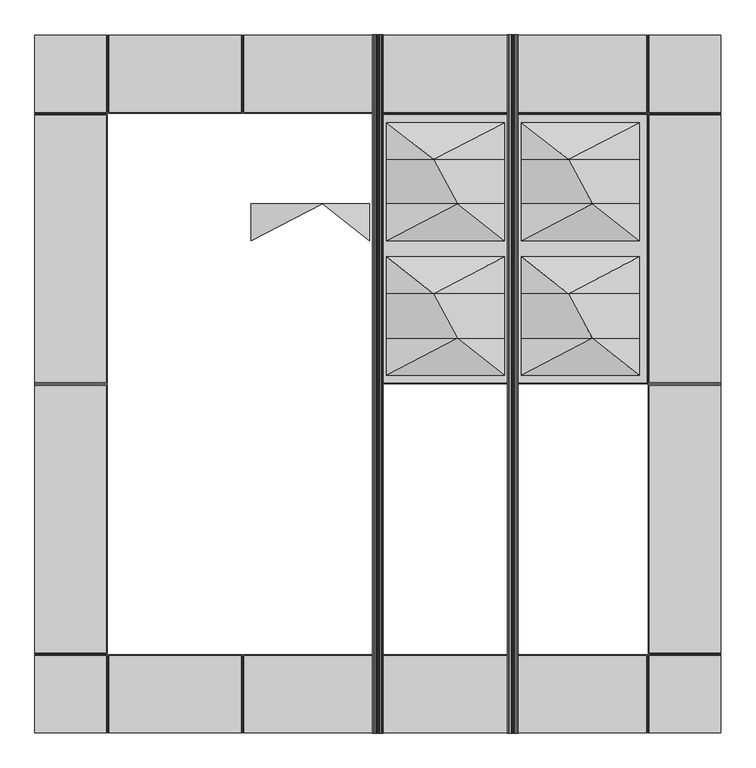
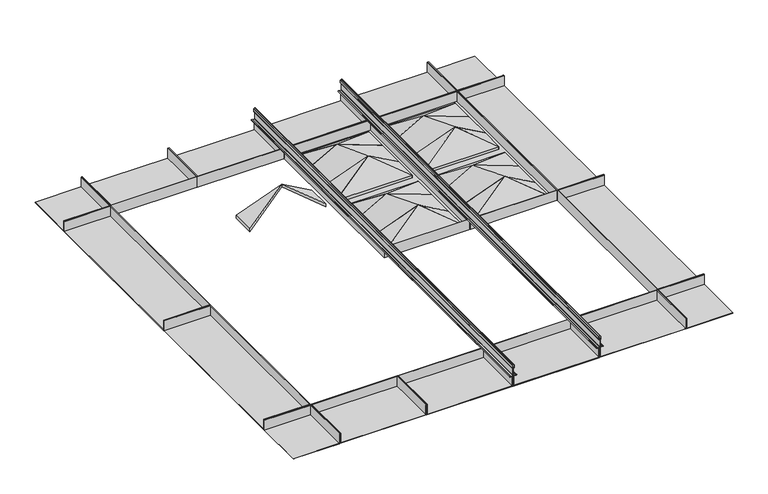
"""IFC4 building model written with IfcOpenShell, lengths in millimetres: proxy geometry, Maxxit_Highland-Ceiling_rev-01 : Maxxit_Highland-Ceiling_Duo."""

from ifc_helpers import new_model, si_unit, point, frame, frame_2d, origin, place, context, project, spatial, polyline, circle_curve, trimmed, segment, composite_curve, outline, extrude, faceted_brep, source, transform, mapped, element, save
from ifc_brep_helpers import plane_surface, spline_surface, advanced_brep


def generic_models_f8d8eb25(model_context):
    return source(origin(), model_context, "Body", "SolidModel", [
        extrude(outline(composite_curve([segment(polyline([(26.3453115, 1080.6459122), (26.0364605, 1089.0159382), (27.0486923, 1089.0159382), (27.0486923, 1081.2525313)]), True, "CONTINUOUS"), segment(trimmed(circle_curve(frame_2d((28.0053766, 1081.2525313)), 0.9566843), [point((27.0486923, 1081.2525313))], [point((28.0053766, 1080.295847))], True, "CARTESIAN"), True, "CONTINUOUS"), segment(polyline([(28.0053766, 1080.295847), (53.7729211, 1080.295847)]), True, "CONTINUOUS"), segment(trimmed(circle_curve(frame_2d((53.6130577, 1081.0226944)), 0.74422), [point((53.7729211, 1080.295847))], [point((54.356, 1080.9791036))], True, "CARTESIAN"), True, "CONTINUOUS"), segment(trimmed(circle_curve(frame_2d((58.371716, 1081.2382203)), 4.0240672), [point((54.356, 1080.9791036))], [point((54.4068054, 1081.9256795))], False, "CARTESIAN"), True, "CONTINUOUS"), segment(trimmed(circle_curve(frame_2d((55.7865501, 1081.567924)), 1.4253717), [point((54.4068054, 1081.9256795))], [point((55.7865501, 1082.9932957))], False, "CARTESIAN"), True, "CONTINUOUS"), segment(polyline([(55.7865501, 1082.9932957), (64.7585942, 1082.9932957)]), True, "CONTINUOUS"), segment(trimmed(circle_curve(frame_2d((64.8150812, 1080.9432108)), 2.0508629), [point((64.7585942, 1082.9932957))], [point((66.2652603, 1082.3933899))], False, "CARTESIAN"), True, "CONTINUOUS"), segment(polyline([(66.2652603, 1082.3933899), (68.1708325, 1080.4878177)]), True, "CONTINUOUS"), segment(trimmed(circle_curve(frame_2d((67.1830148, 1079.5)), 1.3969852), [point((68.1708325, 1080.4878177))], [point((68.1708325, 1078.5121823))], False, "CARTESIAN"), True, "CONTINUOUS"), segment(polyline([(68.1708325, 1078.5121823), (66.2652603, 1076.6066101)]), True, "CONTINUOUS"), segment(trimmed(circle_curve(frame_2d((64.8150812, 1078.0567892)), 2.0508629), [point((66.2652603, 1076.6066101))], [point((64.7585942, 1076.0067043))], False, "CARTESIAN"), True, "CONTINUOUS"), segment(polyline([(64.7585942, 1076.0067043), (55.7865501, 1076.0067043)]), True, "CONTINUOUS"), segment(trimmed(circle_curve(frame_2d((55.7865501, 1077.432076)), 1.4253717), [point((55.7865501, 1076.0067043))], [point((54.4068054, 1077.0743205))], False, "CARTESIAN"), True, "CONTINUOUS"), segment(trimmed(circle_curve(frame_2d((58.371716, 1077.7617797)), 4.0240672), [point((54.4068054, 1077.0743205))], [point((54.356, 1078.0208964))], False, "CARTESIAN"), True, "CONTINUOUS"), segment(trimmed(circle_curve(frame_2d((53.6130577, 1077.9773056)), 0.74422), [point((54.356, 1078.0208964))], [point((53.7436541, 1078.7099774))], True, "CARTESIAN"), True, "CONTINUOUS"), segment(polyline([(53.7436541, 1078.7099774), (28.0053766, 1078.7099774)]), True, "CONTINUOUS"), segment(trimmed(circle_curve(frame_2d((28.0053766, 1077.7532931)), 0.9566843), [point((28.0053766, 1078.7099774))], [point((27.0486923, 1077.7532931))], True, "CARTESIAN"), True, "CONTINUOUS"), segment(polyline([(27.0486923, 1077.7532931), (27.0486923, 1069.1569771), (26.0290179, 1069.1569771), (26.3453115, 1078.3599122)]), True, "CONTINUOUS"), segment(trimmed(circle_curve(frame_2d((27.4883115, 1078.3599122)), 1.143), [point((26.3453115, 1078.3599122))], [point((27.4883115, 1079.5029122))], False, "CARTESIAN"), True, "CONTINUOUS"), segment(trimmed(circle_curve(frame_2d((27.4883115, 1080.6459122)), 1.143), [point((27.4883115, 1079.5029122))], [point((26.3453115, 1080.6459122))], False, "CARTESIAN"), True, "CONTINUOUS")], self_intersect=False), holes=[composite_curve([segment(trimmed(circle_curve(frame_2d((54.058724, 1078.4303923)), 1.0922), [point((54.2797221, 1079.5))], [point((55.150924, 1078.4303923))], False, "CARTESIAN"), True, "CONTINUOUS"), segment(polyline([(55.150924, 1078.4303923), (55.150924, 1077.4399715)]), True, "CONTINUOUS"), segment(trimmed(circle_curve(frame_2d((55.7859245, 1077.4399715)), 0.6350005), [point((55.150924, 1077.4399715))], [point((55.7859245, 1076.804971))], True, "CARTESIAN"), True, "CONTINUOUS"), segment(polyline([(55.7859245, 1076.804971), (64.7585942, 1076.804971)]), True, "CONTINUOUS"), segment(trimmed(circle_curve(frame_2d((64.7240599, 1078.3078141)), 1.5032399), [point((64.7585942, 1076.804971))], [point((65.7039943, 1077.1678761))], True, "CARTESIAN"), True, "CONTINUOUS"), segment(polyline([(65.7039943, 1077.1678761), (67.6095665, 1079.0734483)]), True, "CONTINUOUS"), segment(trimmed(circle_curve(frame_2d((67.1830148, 1079.5)), 0.6032352), [point((67.6095665, 1079.0734483))], [point((67.6095665, 1079.9265517))], True, "CARTESIAN"), True, "CONTINUOUS"), segment(polyline([(67.6095665, 1079.9265517), (65.7039943, 1081.8321239)]), True, "CONTINUOUS"), segment(trimmed(circle_curve(frame_2d((64.7240599, 1080.6921859)), 1.5032399), [point((65.7039943, 1081.8321239))], [point((64.7585942, 1082.195029))], True, "CARTESIAN"), True, "CONTINUOUS"), segment(polyline([(64.7585942, 1082.195029), (55.7859245, 1082.195029)]), True, "CONTINUOUS"), segment(trimmed(circle_curve(frame_2d((55.7859245, 1081.5600285)), 0.6350005), [point((55.7859245, 1082.195029))], [point((55.150924, 1081.5600285))], True, "CARTESIAN"), True, "CONTINUOUS"), segment(polyline([(55.150924, 1081.5600285), (55.150924, 1080.5696077)]), True, "CONTINUOUS"), segment(trimmed(circle_curve(frame_2d((54.058724, 1080.5696077)), 1.0922), [point((55.150924, 1080.5696077))], [point((54.2797221, 1079.5))], False, "CARTESIAN"), True, "CONTINUOUS")], self_intersect=False)]), frame((0.0, -0.79375, 0.0), z_axis=(0.0, 1.0, 0.0), x_axis=(0.0, 0.0, 1.0)), (0.0, 0.0, 1.0), 1574.8),
        extrude(outline(composite_curve([segment(trimmed(circle_curve(frame_2d((26.8823557, 1089.9357385)), 1.4823557), [point((25.4, 1089.9357385))], [point((28.3175237, 1089.5646975))], False, "CARTESIAN"), True, "CONTINUOUS"), segment(polyline([(28.3175237, 1089.5646975), (27.887022, 1088.0385205), (27.123083, 1088.2540113), (27.550773, 1089.7702203)]), True, "CONTINUOUS"), segment(trimmed(circle_curve(frame_2d((26.8823557, 1089.9357385)), 0.6886057), [point((27.550773, 1089.7702203))], [point((26.19375, 1089.9357385))], True, "CARTESIAN"), True, "CONTINUOUS"), segment(polyline([(26.19375, 1089.9357385), (26.19375, 1069.0642615)]), True, "CONTINUOUS"), segment(trimmed(circle_curve(frame_2d((26.8823557, 1069.0642615)), 0.6886057), [point((26.19375, 1069.0642615))], [point((27.550773, 1069.2297797))], True, "CARTESIAN"), True, "CONTINUOUS"), segment(polyline([(27.550773, 1069.2297797), (27.123083, 1070.7459887), (27.887022, 1070.9614795), (28.3175237, 1069.4353025)]), True, "CONTINUOUS"), segment(trimmed(circle_curve(frame_2d((26.8823557, 1069.0642615)), 1.4823557), [point((28.3175237, 1069.4353025))], [point((25.4, 1069.0642615))], False, "CARTESIAN"), True, "CONTINUOUS"), segment(polyline([(25.4, 1069.0642615), (25.4, 1089.9357385)]), True, "CONTINUOUS")], self_intersect=False)), frame((0.0, -0.79375, 0.0), z_axis=(0.0, 1.0, 0.0), x_axis=(0.0, 0.0, 1.0)), (0.0, 0.0, 1.0), 1574.8),
        extrude(outline(composite_curve([segment(polyline([(26.3453115, 775.8459122), (26.0364605, 784.2159382), (27.0486923, 784.2159382), (27.0486923, 776.4525313)]), True, "CONTINUOUS"), segment(trimmed(circle_curve(frame_2d((28.0053766, 776.4525313)), 0.9566843), [point((27.0486923, 776.4525313))], [point((28.0053766, 775.495847))], True, "CARTESIAN"), True, "CONTINUOUS"), segment(polyline([(28.0053766, 775.495847), (53.7729211, 775.495847)]), True, "CONTINUOUS"), segment(trimmed(circle_curve(frame_2d((53.6130577, 776.2226944)), 0.74422), [point((53.7729211, 775.495847))], [point((54.356, 776.1791036))], True, "CARTESIAN"), True, "CONTINUOUS"), segment(trimmed(circle_curve(frame_2d((58.371716, 776.4382203)), 4.0240672), [point((54.356, 776.1791036))], [point((54.4068054, 777.1256795))], False, "CARTESIAN"), True, "CONTINUOUS"), segment(trimmed(circle_curve(frame_2d((55.7865501, 776.767924)), 1.4253717), [point((54.4068054, 777.1256795))], [point((55.7865501, 778.1932957))], False, "CARTESIAN"), True, "CONTINUOUS"), segment(polyline([(55.7865501, 778.1932957), (64.7585942, 778.1932957)]), True, "CONTINUOUS"), segment(trimmed(circle_curve(frame_2d((64.8150812, 776.1432108)), 2.0508629), [point((64.7585942, 778.1932957))], [point((66.2652603, 777.5933899))], False, "CARTESIAN"), True, "CONTINUOUS"), segment(polyline([(66.2652603, 777.5933899), (68.1708325, 775.6878177)]), True, "CONTINUOUS"), segment(trimmed(circle_curve(frame_2d((67.1830148, 774.7)), 1.3969852), [point((68.1708325, 775.6878177))], [point((68.1708325, 773.7121823))], False, "CARTESIAN"), True, "CONTINUOUS"), segment(polyline([(68.1708325, 773.7121823), (66.2652603, 771.8066101)]), True, "CONTINUOUS"), segment(trimmed(circle_curve(frame_2d((64.8150812, 773.2567892)), 2.0508629), [point((66.2652603, 771.8066101))], [point((64.7585942, 771.2067043))], False, "CARTESIAN"), True, "CONTINUOUS"), segment(polyline([(64.7585942, 771.2067043), (55.7865501, 771.2067043)]), True, "CONTINUOUS"), segment(trimmed(circle_curve(frame_2d((55.7865501, 772.632076)), 1.4253717), [point((55.7865501, 771.2067043))], [point((54.4068054, 772.2743205))], False, "CARTESIAN"), True, "CONTINUOUS"), segment(trimmed(circle_curve(frame_2d((58.371716, 772.9617797)), 4.0240672), [point((54.4068054, 772.2743205))], [point((54.356, 773.2208964))], False, "CARTESIAN"), True, "CONTINUOUS"), segment(trimmed(circle_curve(frame_2d((53.6130577, 773.1773056)), 0.74422), [point((54.356, 773.2208964))], [point((53.7436541, 773.9099774))], True, "CARTESIAN"), True, "CONTINUOUS"), segment(polyline([(53.7436541, 773.9099774), (28.0053766, 773.9099774)]), True, "CONTINUOUS"), segment(trimmed(circle_curve(frame_2d((28.0053766, 772.9532931)), 0.9566843), [point((28.0053766, 773.9099774))], [point((27.0486923, 772.9532931))], True, "CARTESIAN"), True, "CONTINUOUS"), segment(polyline([(27.0486923, 772.9532931), (27.0486923, 764.3569771), (26.0290179, 764.3569771), (26.3453115, 773.5599122)]), True, "CONTINUOUS"), segment(trimmed(circle_curve(frame_2d((27.4883115, 773.5599122)), 1.143), [point((26.3453115, 773.5599122))], [point((27.4883115, 774.7029122))], False, "CARTESIAN"), True, "CONTINUOUS"), segment(trimmed(circle_curve(frame_2d((27.4883115, 775.8459122)), 1.143), [point((27.4883115, 774.7029122))], [point((26.3453115, 775.8459122))], False, "CARTESIAN"), True, "CONTINUOUS")], self_intersect=False), holes=[composite_curve([segment(trimmed(circle_curve(frame_2d((54.058724, 773.6303923)), 1.0922), [point((54.2797221, 774.7))], [point((55.150924, 773.6303923))], False, "CARTESIAN"), True, "CONTINUOUS"), segment(polyline([(55.150924, 773.6303923), (55.150924, 772.6399715)]), True, "CONTINUOUS"), segment(trimmed(circle_curve(frame_2d((55.7859245, 772.6399715)), 0.6350005), [point((55.150924, 772.6399715))], [point((55.7859245, 772.004971))], True, "CARTESIAN"), True, "CONTINUOUS"), segment(polyline([(55.7859245, 772.004971), (64.7585942, 772.004971)]), True, "CONTINUOUS"), segment(trimmed(circle_curve(frame_2d((64.7240599, 773.5078141)), 1.5032399), [point((64.7585942, 772.004971))], [point((65.7039943, 772.3678761))], True, "CARTESIAN"), True, "CONTINUOUS"), segment(polyline([(65.7039943, 772.3678761), (67.6095665, 774.2734483)]), True, "CONTINUOUS"), segment(trimmed(circle_curve(frame_2d((67.1830148, 774.7)), 0.6032352), [point((67.6095665, 774.2734483))], [point((67.6095665, 775.1265517))], True, "CARTESIAN"), True, "CONTINUOUS"), segment(polyline([(67.6095665, 775.1265517), (65.7039943, 777.0321239)]), True, "CONTINUOUS"), segment(trimmed(circle_curve(frame_2d((64.7240599, 775.8921859)), 1.5032399), [point((65.7039943, 777.0321239))], [point((64.7585942, 777.395029))], True, "CARTESIAN"), True, "CONTINUOUS"), segment(polyline([(64.7585942, 777.395029), (55.7859245, 777.395029)]), True, "CONTINUOUS"), segment(trimmed(circle_curve(frame_2d((55.7859245, 776.7600285)), 0.6350005), [point((55.7859245, 777.395029))], [point((55.150924, 776.7600285))], True, "CARTESIAN"), True, "CONTINUOUS"), segment(polyline([(55.150924, 776.7600285), (55.150924, 775.7696077)]), True, "CONTINUOUS"), segment(trimmed(circle_curve(frame_2d((54.058724, 775.7696077)), 1.0922), [point((55.150924, 775.7696077))], [point((54.2797221, 774.7))], False, "CARTESIAN"), True, "CONTINUOUS")], self_intersect=False)]), frame((0.0, -0.79375, 0.0), z_axis=(0.0, 1.0, 0.0), x_axis=(0.0, 0.0, 1.0)), (0.0, 0.0, 1.0), 1574.8),
        extrude(outline(composite_curve([segment(trimmed(circle_curve(frame_2d((26.8823557, 785.1357385)), 1.4823557), [point((25.4, 785.1357385))], [point((28.3175237, 784.7646975))], False, "CARTESIAN"), True, "CONTINUOUS"), segment(polyline([(28.3175237, 784.7646975), (27.887022, 783.2385205), (27.123083, 783.4540113), (27.550773, 784.9702203)]), True, "CONTINUOUS"), segment(trimmed(circle_curve(frame_2d((26.8823557, 785.1357385)), 0.6886057), [point((27.550773, 784.9702203))], [point((26.19375, 785.1357385))], True, "CARTESIAN"), True, "CONTINUOUS"), segment(polyline([(26.19375, 785.1357385), (26.19375, 764.2642615)]), True, "CONTINUOUS"), segment(trimmed(circle_curve(frame_2d((26.8823557, 764.2642615)), 0.6886057), [point((26.19375, 764.2642615))], [point((27.550773, 764.4297797))], True, "CARTESIAN"), True, "CONTINUOUS"), segment(polyline([(27.550773, 764.4297797), (27.123083, 765.9459887), (27.887022, 766.1614795), (28.3175237, 764.6353025)]), True, "CONTINUOUS"), segment(trimmed(circle_curve(frame_2d((26.8823557, 764.2642615)), 1.4823557), [point((28.3175237, 764.6353025))], [point((25.4, 764.2642615))], False, "CARTESIAN"), True, "CONTINUOUS"), segment(polyline([(25.4, 764.2642615), (25.4, 785.1357385)]), True, "CONTINUOUS")], self_intersect=False)), frame((0.0, -0.79375, 0.0), z_axis=(0.0, 1.0, 0.0), x_axis=(0.0, 0.0, 1.0)), (0.0, 0.0, 1.0), 1574.8),
        faceted_brep([(1385.09375, 1395.4125, 25.4), (1385.09375, 787.4, 25.4), (1548.60625, 787.4, 25.4), (1548.60625, 788.9875, 25.4), (1386.68125, 788.9875, 25.4), (1386.68125, 1393.825, 25.4), (1548.60625, 1393.825, 25.4), (1548.60625, 1395.4125, 25.4), (1385.09375, 1395.4125, -12.7), (1548.60625, 1395.4125, -12.7), (1548.60625, 787.4, -12.7), (1385.09375, 787.4, -12.7), (1548.60625, 1393.825, -11.1125), (1548.60625, 788.9875, -11.1125), (1386.68125, 788.9875, -11.1125), (1386.68125, 1393.825, -11.1125)], [[[0, 1, 2, 3, 4, 5, 6, 7]], [[8, 9, 10, 11]], [[7, 9, 8, 0]], [[9, 7, 6, 12, 13, 3, 2, 10]], [[1, 11, 10, 2]], [[0, 8, 11, 1]], [[14, 13, 12, 15]], [[12, 6, 5, 15]], [[14, 4, 3, 13]], [[15, 5, 4, 14]]]),
        faceted_brep([(1385.09375, 785.8125, 25.4), (1385.09375, 177.8, 25.4), (1548.60625, 177.8, 25.4), (1548.60625, 179.3875, 25.4), (1386.68125, 179.3875, 25.4), (1386.68125, 784.225, 25.4), (1548.60625, 784.225, 25.4), (1548.60625, 785.8125, 25.4), (1385.09375, 785.8125, -12.7), (1548.60625, 785.8125, -12.7), (1548.60625, 177.8, -12.7), (1385.09375, 177.8, -12.7), (1548.60625, 784.225, -11.1125), (1548.60625, 179.3875, -11.1125), (1386.68125, 179.3875, -11.1125), (1386.68125, 784.225, -11.1125)], [[[0, 1, 2, 3, 4, 5, 6, 7]], [[8, 9, 10, 11]], [[7, 9, 8, 0]], [[9, 7, 6, 12, 13, 3, 2, 10]], [[1, 11, 10, 2]], [[0, 8, 11, 1]], [[14, 13, 12, 15]], [[12, 6, 5, 15]], [[14, 4, 3, 13]], [[15, 5, 4, 14]]]),
        faceted_brep([(1383.30625, 1397.0, 25.4), (1383.30625, 1573.2125, 25.4), (1381.71875, 1573.2125, 25.4), (1381.71875, 1398.5875, 25.4), (1081.88125, 1398.5875, 25.4), (1081.88125, 1573.2125, 25.4), (1080.29375, 1573.2125, 25.4), (1080.29375, 1397.0, 25.4), (1383.30625, 1397.0, -12.7), (1080.29375, 1397.0, -12.7), (1080.29375, 1573.2125, -12.7), (1383.30625, 1573.2125, -12.7), (1081.88125, 1573.2125, -11.1125), (1381.71875, 1573.2125, -11.1125), (1381.71875, 1398.5875, -11.1125), (1081.88125, 1398.5875, -11.1125)], [[[0, 1, 2, 3, 4, 5, 6, 7]], [[8, 9, 10, 11]], [[7, 9, 8, 0]], [[6, 10, 9, 7]], [[10, 6, 5, 12, 13, 2, 1, 11]], [[0, 8, 11, 1]], [[14, 13, 12, 15]], [[15, 4, 3, 14]], [[12, 5, 4, 15]], [[14, 3, 2, 13]]]),
        faceted_brep([(1078.50625, 1397.0, 25.4), (1078.50625, 1573.2125, 25.4), (1076.91875, 1573.2125, 25.4), (1076.91875, 1398.5875, 25.4), (777.08125, 1398.5875, 25.4), (777.08125, 1573.2125, 25.4), (775.49375, 1573.2125, 25.4), (775.49375, 1397.0, 25.4), (1078.50625, 1397.0, -12.7), (775.49375, 1397.0, -12.7), (775.49375, 1573.2125, -12.7), (1078.50625, 1573.2125, -12.7), (777.08125, 1573.2125, -11.1125), (1076.91875, 1573.2125, -11.1125), (1076.91875, 1398.5875, -11.1125), (777.08125, 1398.5875, -11.1125)], [[[0, 1, 2, 3, 4, 5, 6, 7]], [[8, 9, 10, 11]], [[7, 9, 8, 0]], [[6, 10, 9, 7]], [[10, 6, 5, 12, 13, 2, 1, 11]], [[0, 8, 11, 1]], [[14, 13, 12, 15]], [[15, 4, 3, 14]], [[12, 5, 4, 15]], [[14, 3, 2, 13]]]),
        faceted_brep([(773.70625, 1397.0, 25.4), (773.70625, 1573.2125, 25.4), (772.11875, 1573.2125, 25.4), (772.11875, 1398.5875, 25.4), (472.28125, 1398.5875, 25.4), (472.28125, 1573.2125, 25.4), (470.69375, 1573.2125, 25.4), (470.69375, 1397.0, 25.4), (773.70625, 1397.0, -12.7), (470.69375, 1397.0, -12.7), (470.69375, 1573.2125, -12.7), (773.70625, 1573.2125, -12.7), (472.28125, 1573.2125, -11.1125), (772.11875, 1573.2125, -11.1125), (772.11875, 1398.5875, -11.1125), (472.28125, 1398.5875, -11.1125)], [[[0, 1, 2, 3, 4, 5, 6, 7]], [[8, 9, 10, 11]], [[7, 9, 8, 0]], [[6, 10, 9, 7]], [[10, 6, 5, 12, 13, 2, 1, 11]], [[0, 8, 11, 1]], [[14, 13, 12, 15]], [[15, 4, 3, 14]], [[12, 5, 4, 15]], [[14, 3, 2, 13]]]),
        faceted_brep([(468.90625, 1397.0, 25.4), (468.90625, 1573.2125, 25.4), (467.31875, 1573.2125, 25.4), (467.31875, 1398.5875, 25.4), (167.48125, 1398.5875, 25.4), (167.48125, 1573.2125, 25.4), (165.89375, 1573.2125, 25.4), (165.89375, 1397.0, 25.4), (468.90625, 1397.0, -12.7), (165.89375, 1397.0, -12.7), (165.89375, 1573.2125, -12.7), (468.90625, 1573.2125, -12.7), (167.48125, 1573.2125, -11.1125), (467.31875, 1573.2125, -11.1125), (467.31875, 1398.5875, -11.1125), (167.48125, 1398.5875, -11.1125)], [[[0, 1, 2, 3, 4, 5, 6, 7]], [[8, 9, 10, 11]], [[7, 9, 8, 0]], [[6, 10, 9, 7]], [[10, 6, 5, 12, 13, 2, 1, 11]], [[0, 8, 11, 1]], [[14, 13, 12, 15]], [[15, 4, 3, 14]], [[12, 5, 4, 15]], [[14, 3, 2, 13]]]),
        faceted_brep([(164.30625, 1395.4125, 25.4), (0.79375, 1395.4125, 25.4), (0.79375, 1393.825, 25.4), (162.71875, 1393.825, 25.4), (162.71875, 788.9875, 25.4), (0.79375, 788.9875, 25.4), (0.79375, 787.4, 25.4), (164.30625, 787.4, 25.4), (164.30625, 1395.4125, -12.7), (164.30625, 787.4, -12.7), (0.79375, 787.4, -12.7), (0.79375, 1395.4125, -12.7), (0.79375, 788.9875, -11.1125), (0.79375, 1393.825, -11.1125), (162.71875, 788.9875, -11.1125), (162.71875, 1393.825, -11.1125)], [[[0, 1, 2, 3, 4, 5, 6, 7]], [[8, 9, 10, 11]], [[1, 0, 8, 11]], [[11, 10, 6, 5, 12, 13, 2, 1]], [[7, 6, 10, 9]], [[0, 7, 9, 8]], [[14, 15, 13, 12]], [[13, 15, 3, 2]], [[14, 12, 5, 4]], [[15, 14, 4, 3]]]),
        faceted_brep([(164.30625, 785.8125, 25.4), (0.79375, 785.8125, 25.4), (0.79375, 784.225, 25.4), (162.71875, 784.225, 25.4), (162.71875, 179.3875, 25.4), (0.79375, 179.3875, 25.4), (0.79375, 177.8, 25.4), (164.30625, 177.8, 25.4), (164.30625, 785.8125, -12.7), (164.30625, 177.8, -12.7), (0.79375, 177.8, -12.7), (0.79375, 785.8125, -12.7), (0.79375, 179.3875, -11.1125), (0.79375, 784.225, -11.1125), (162.71875, 179.3875, -11.1125), (162.71875, 784.225, -11.1125)], [[[0, 1, 2, 3, 4, 5, 6, 7]], [[8, 9, 10, 11]], [[1, 0, 8, 11]], [[11, 10, 6, 5, 12, 13, 2, 1]], [[7, 6, 10, 9]], [[0, 7, 9, 8]], [[14, 15, 13, 12]], [[13, 15, 3, 2]], [[14, 12, 5, 4]], [[15, 14, 4, 3]]]),
        faceted_brep([(1383.30625, 176.2125, 25.4), (1080.29375, 176.2125, 25.4), (1080.29375, 0.0, 25.4), (1081.88125, 0.0, 25.4), (1081.88125, 174.625, 25.4), (1381.71875, 174.625, 25.4), (1381.71875, 0.0, 25.4), (1383.30625, 0.0, 25.4), (1383.30625, 176.2125, -12.7), (1383.30625, 0.0, -12.7), (1080.29375, 0.0, -12.7), (1080.29375, 176.2125, -12.7), (1381.71875, 0.0, -11.1125), (1081.88125, 0.0, -11.1125), (1381.71875, 174.625, -11.1125), (1081.88125, 174.625, -11.1125)], [[[0, 1, 2, 3, 4, 5, 6, 7]], [[8, 9, 10, 11]], [[1, 0, 8, 11]], [[2, 1, 11, 10]], [[10, 9, 7, 6, 12, 13, 3, 2]], [[0, 7, 9, 8]], [[14, 15, 13, 12]], [[15, 14, 5, 4]], [[13, 15, 4, 3]], [[14, 12, 6, 5]]]),
        faceted_brep([(1078.50625, 176.2125, 25.4), (775.49375, 176.2125, 25.4), (775.49375, 0.0, 25.4), (777.08125, 0.0, 25.4), (777.08125, 174.625, 25.4), (1076.91875, 174.625, 25.4), (1076.91875, 0.0, 25.4), (1078.50625, 0.0, 25.4), (1078.50625, 176.2125, -12.7), (1078.50625, 0.0, -12.7), (775.49375, 0.0, -12.7), (775.49375, 176.2125, -12.7), (1076.91875, 0.0, -11.1125), (777.08125, 0.0, -11.1125), (1076.91875, 174.625, -11.1125), (777.08125, 174.625, -11.1125)], [[[0, 1, 2, 3, 4, 5, 6, 7]], [[8, 9, 10, 11]], [[1, 0, 8, 11]], [[2, 1, 11, 10]], [[10, 9, 7, 6, 12, 13, 3, 2]], [[0, 7, 9, 8]], [[14, 15, 13, 12]], [[15, 14, 5, 4]], [[13, 15, 4, 3]], [[14, 12, 6, 5]]]),
        faceted_brep([(773.70625, 176.2125, 25.4), (470.69375, 176.2125, 25.4), (470.69375, 0.0, 25.4), (472.28125, 0.0, 25.4), (472.28125, 174.625, 25.4), (772.11875, 174.625, 25.4), (772.11875, 0.0, 25.4), (773.70625, 0.0, 25.4), (773.70625, 176.2125, -12.7), (773.70625, 0.0, -12.7), (470.69375, 0.0, -12.7), (470.69375, 176.2125, -12.7), (772.11875, 0.0, -11.1125), (472.28125, 0.0, -11.1125), (772.11875, 174.625, -11.1125), (472.28125, 174.625, -11.1125)], [[[0, 1, 2, 3, 4, 5, 6, 7]], [[8, 9, 10, 11]], [[1, 0, 8, 11]], [[2, 1, 11, 10]], [[10, 9, 7, 6, 12, 13, 3, 2]], [[0, 7, 9, 8]], [[14, 15, 13, 12]], [[15, 14, 5, 4]], [[13, 15, 4, 3]], [[14, 12, 6, 5]]]),
        faceted_brep([(468.90625, 176.2125, 25.4), (165.89375, 176.2125, 25.4), (165.89375, 0.0, 25.4), (167.48125, 0.0, 25.4), (167.48125, 174.625, 25.4), (467.31875, 174.625, 25.4), (467.31875, 0.0, 25.4), (468.90625, 0.0, 25.4), (468.90625, 176.2125, -12.7), (468.90625, 0.0, -12.7), (165.89375, 0.0, -12.7), (165.89375, 176.2125, -12.7), (467.31875, 0.0, -11.1125), (167.48125, 0.0, -11.1125), (467.31875, 174.625, -11.1125), (167.48125, 174.625, -11.1125)], [[[0, 1, 2, 3, 4, 5, 6, 7]], [[8, 9, 10, 11]], [[1, 0, 8, 11]], [[2, 1, 11, 10]], [[10, 9, 7, 6, 12, 13, 3, 2]], [[0, 7, 9, 8]], [[14, 15, 13, 12]], [[15, 14, 5, 4]], [[13, 15, 4, 3]], [[14, 12, 6, 5]]]),
        faceted_brep([(1548.60625, 176.2125, 25.4), (1385.09375, 176.2125, 25.4), (1385.09375, 0.0, 25.4), (1386.68125, 0.0, 25.4), (1386.68125, 174.625, 25.4), (1548.60625, 174.625, 25.4), (1385.09375, 0.0, -12.7), (1385.09375, 176.2125, -12.7), (1548.60625, 176.2125, -12.7), (1548.60625, 0.0, -12.7), (1548.60625, 0.0, -11.1125), (1386.68125, 0.0, -11.1125), (1548.60625, 174.625, -11.1125), (1386.68125, 174.625, -11.1125)], [[[0, 1, 2, 3, 4, 5]], [[6, 7, 8, 9]], [[6, 9, 10, 11, 3, 2]], [[9, 8, 0, 5, 12, 10]], [[2, 1, 7, 6]], [[1, 0, 8, 7]], [[13, 11, 10, 12]], [[11, 13, 4, 3]], [[13, 12, 5, 4]]]),
        faceted_brep([(164.30625, 0.0, 25.4), (164.30625, 176.2125, 25.4), (0.79375, 176.2125, 25.4), (0.79375, 174.625, 25.4), (162.71875, 174.625, 25.4), (162.71875, 0.0, 25.4), (0.79375, 176.2125, -12.7), (164.30625, 176.2125, -12.7), (164.30625, 0.0, -12.7), (0.79375, 0.0, -12.7), (0.79375, 0.0, -11.1125), (0.79375, 174.625, -11.1125), (162.71875, 0.0, -11.1125), (162.71875, 174.625, -11.1125)], [[[0, 1, 2, 3, 4, 5]], [[6, 7, 8, 9]], [[6, 9, 10, 11, 3, 2]], [[9, 8, 0, 5, 12, 10]], [[1, 0, 8, 7]], [[2, 1, 7, 6]], [[13, 11, 10, 12]], [[11, 13, 4, 3]], [[13, 12, 5, 4]]]),
        faceted_brep([(164.30625, 1397.0, 25.4), (164.30625, 1573.2125, 25.4), (162.71875, 1573.2125, 25.4), (162.71875, 1398.5875, 25.4), (0.79375, 1398.5875, 25.4), (0.79375, 1397.0, 25.4), (164.30625, 1397.0, -12.7), (0.79375, 1397.0, -12.7), (0.79375, 1573.2125, -12.7), (164.30625, 1573.2125, -12.7), (0.79375, 1573.2125, -11.1125), (162.71875, 1573.2125, -11.1125), (0.79375, 1398.5875, -11.1125), (162.71875, 1398.5875, -11.1125)], [[[0, 1, 2, 3, 4, 5]], [[6, 7, 8, 9]], [[1, 0, 6, 9]], [[0, 5, 7, 6]], [[9, 8, 10, 11, 2, 1]], [[8, 7, 5, 4, 12, 10]], [[13, 11, 10, 12]], [[11, 13, 3, 2]], [[13, 12, 4, 3]]]),
        faceted_brep([(1385.09375, 1573.2125, 25.4), (1385.09375, 1397.0, 25.4), (1548.60625, 1397.0, 25.4), (1548.60625, 1398.5875, 25.4), (1386.68125, 1398.5875, 25.4), (1386.68125, 1573.2125, 25.4), (1385.09375, 1573.2125, -12.7), (1548.60625, 1573.2125, -12.7), (1548.60625, 1397.0, -12.7), (1385.09375, 1397.0, -12.7), (1386.68125, 1573.2125, -11.1125), (1548.60625, 1573.2125, -11.1125), (1548.60625, 1398.5875, -11.1125), (1386.68125, 1398.5875, -11.1125)], [[[0, 1, 2, 3, 4, 5]], [[6, 7, 8, 9]], [[7, 6, 0, 5, 10, 11]], [[1, 0, 6, 9]], [[2, 1, 9, 8]], [[8, 7, 11, 12, 3, 2]], [[13, 12, 11, 10]], [[12, 13, 4, 3]], [[13, 10, 5, 4]]]),
        faceted_brep([(1365.50625, 1192.9263925, -11.1125), (1259.4655039, 1192.9263925, 48.5063488), (1098.8062531, 1192.9263925, -11.1125), (1098.8062531, 1192.9263925, -0.9528165), (1259.4655039, 1192.9263925, 58.6660323), (1365.50625, 1192.9263925, -0.9528165), (1365.50625, 1109.6625153, -0.9528165), (1365.50625, 1109.6625153, -11.1125), (1098.8113555, 1109.6513203, -11.1106065), (1098.8062531, 1109.6486744, -0.9528165)], [[[0, 1, 2, 3, 4, 5]], [[5, 4, 6]], [[0, 5, 6, 7]], [[1, 0, 7]], [[2, 1, 8]], [[3, 2, 8, 9]], [[4, 3, 9]], [[1, 4, 9, 8]], [[4, 1, 7, 6]]]),
        faceted_brep([(1098.8062531, 1109.6625153, -0.9528165), (1365.50625, 1109.6625153, -0.9528165), (1259.4655039, 1192.9263925, 58.6660323), (1365.50625, 1109.6625153, -11.1125), (1098.8062531, 1109.6625153, -11.1125), (1259.4479879, 1192.9487231, 48.522338)], [[[0, 1, 2]], [[3, 4, 5]], [[1, 0, 4, 3]], [[5, 2, 1, 3]], [[2, 5, 4, 0]]]),
        faceted_brep([(1098.8062531, 1376.3297521, -0.9528165), (1365.50625, 1376.3297521, -0.9528165), (1365.4430731, 1376.3297521, -11.1125), (1098.8062531, 1376.3297521, -11.1125), (1204.8710937, 1293.0658749, 48.5063488), (1204.8710937, 1293.0658749, 58.6660323)], [[[0, 1, 2, 3]], [[3, 2, 4]], [[1, 0, 5]], [[5, 4, 2, 1]], [[4, 5, 0, 3]]]),
        advanced_brep(
        [(1365.50625, 889.713865, -0.9528165), (1259.4655039, 889.713865, 58.6660323), (1098.8062531, 889.713865, -0.9528165), (1098.8062531, 889.713865, -11.1125), (1259.4655039, 889.713865, 48.5063488), (1365.50625, 889.713865, -11.1125), (1365.50625, 989.8533474, -0.9528165), (1365.50625, 989.8533474, -11.1125), (1204.8710937, 989.8533474, 48.4974075), (1098.8062531, 989.8533474, -11.1125), (1098.8062531, 989.8533474, -0.9528165), (1204.8710937, 989.8533474, 58.6570911)],
        [
            (0, 1),
            (1, 2),
            (2, 3),
            (3, 4),
            (4, 5),
            (5, 0),
            (6, 7),
            (7, 8),
            (8, 9),
            (9, 10),
            (10, 11),
            (11, 6),
            (6, 0),
            (5, 7),
            (4, 8),
            (3, 9),
            (2, 10),
            (1, 11),
        ],
        [
            plane_surface(frame((1241.2593357, 889.713865, 13.8402914), z_axis=(0.0, -1.0000000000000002, 0.0), x_axis=(0.8716776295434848, 0.0, -0.4900796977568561))),
            plane_surface(frame((1223.0611989, 989.8533474, 13.8373109), z_axis=(0.0, 1.0000000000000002, 0.0), x_axis=(0.8716776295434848, 0.0, -0.4900796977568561))),
            plane_surface(frame((1365.50625, 989.8533474, -6.0326582), z_axis=(1.0, 0.0, 0.0), x_axis=(0.0, 0.0, 1.0))),
            spline_surface(1, 1, [[(1204.8710937, 989.8533474, 48.4974075), (1259.4655039, 889.713865, 48.5063488)], [(1365.50625, 989.8533474, -11.1125), (1365.50625, 889.713865, -11.1125)]], [2, 2], [2, 2], [0.0, 1.0], [0.0, 1.0]),
            spline_surface(1, 1, [[(1098.8062531, 989.8533474, -11.1125), (1098.8062531, 889.713865, -11.1125)], [(1204.8710937, 989.8533474, 48.4974075), (1259.4655039, 889.713865, 48.5063488)]], [2, 2], [2, 2], [0.0, 1.0], [0.0, 1.0]),
            plane_surface(frame((1098.8062531, 989.8533474, -6.0326582), z_axis=(-1.0, 0.0, 0.0), x_axis=(0.0, 0.0, -1.0))),
            spline_surface(1, 1, [[(1204.8710937, 989.8533474, 58.6570911), (1259.4655039, 889.713865, 58.6660323)], [(1098.8062531, 989.8533474, -0.9528165), (1098.8062531, 889.713865, -0.9528165)]], [2, 2], [2, 2], [0.0, 1.0], [0.0, 1.0]),
            spline_surface(1, 1, [[(1365.50625, 989.8533474, -0.9528165), (1365.50625, 889.713865, -0.9528165)], [(1204.8710937, 989.8533474, 58.6570911), (1259.4655039, 889.713865, 58.6660323)]], [2, 2], [2, 2], [0.0, 1.0], [0.0, 1.0]),
        ],
        [
            (0, [[1, 2, 3, 4, 5, 6]]),
            (1, [[7, 8, 9, 10, 11, 12]]),
            (2, [[-7, 13, -6, 14]]),
            (3, [[-8, -14, -5, 15]]),
            (4, [[-9, -15, -4, 16]]),
            (5, [[-10, -16, -3, 17]]),
            (6, [[-11, -17, -2, 18]]),
            (7, [[-12, -18, -1, -13]]),
        ],
    ),
        faceted_brep([(1365.50625, 1293.0658749, -11.1125), (1365.50625, 1293.0658749, -0.9528165), (1204.8710937, 1293.0658749, 58.6570911), (1098.8062531, 1293.0658749, -0.9528165), (1098.8062531, 1293.0658749, -11.1125), (1204.8710937, 1293.0658749, 48.4974075), (1365.50625, 1376.3625122, -0.9528165), (1365.50625, 1376.3625122, -11.1125), (1098.8062531, 1376.3625122, -11.1125), (1098.8062531, 1376.3625122, -0.9528165)], [[[0, 1, 2, 3, 4, 5]], [[2, 1, 6]], [[1, 0, 7, 6]], [[0, 5, 7]], [[5, 4, 8]], [[4, 3, 9, 8]], [[3, 2, 9]], [[5, 2, 6, 7]], [[2, 5, 8, 9]]]),
        advanced_brep(
        [(1365.50625, 1192.9263925, -0.9528165), (1259.4655039, 1192.9263925, 58.6660323), (1098.8062531, 1192.9263925, -0.9528165), (1098.8062531, 1192.9263925, -11.1125), (1259.4655039, 1192.9263925, 48.5063488), (1365.50625, 1192.9263925, -11.1125), (1365.50625, 1293.0658749, -0.9528165), (1365.50625, 1293.0658749, -11.1125), (1204.8710937, 1293.0658749, 48.4974075), (1098.8062531, 1293.0658749, -11.1125), (1098.8062531, 1293.0658749, -0.9528165), (1204.8710937, 1293.0658749, 58.6570911)],
        [
            (0, 1),
            (1, 2),
            (2, 3),
            (3, 4),
            (4, 5),
            (5, 0),
            (6, 7),
            (7, 8),
            (8, 9),
            (9, 10),
            (10, 11),
            (11, 6),
            (6, 0),
            (5, 7),
            (4, 8),
            (3, 9),
            (2, 10),
            (1, 11),
        ],
        [
            plane_surface(frame((1241.2593357, 1192.9263925, 13.8402914), z_axis=(0.0, -1.0000000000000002, 0.0), x_axis=(0.8716776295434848, 0.0, -0.4900796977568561))),
            plane_surface(frame((1223.0611989, 1293.0658749, 13.8373109), z_axis=(0.0, 1.0000000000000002, 0.0), x_axis=(0.8716776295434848, 0.0, -0.4900796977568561))),
            plane_surface(frame((1365.50625, 1293.0658749, -6.0326582), z_axis=(1.0, 0.0, 0.0), x_axis=(0.0, 0.0, 1.0))),
            spline_surface(1, 1, [[(1204.8710937, 1293.0658749, 48.4974075), (1259.4655039, 1192.9263925, 48.5063488)], [(1365.50625, 1293.0658749, -11.1125), (1365.50625, 1192.9263925, -11.1125)]], [2, 2], [2, 2], [0.0, 1.0], [0.0, 1.0]),
            spline_surface(1, 1, [[(1098.8062531, 1293.0658749, -11.1125), (1098.8062531, 1192.9263925, -11.1125)], [(1204.8710937, 1293.0658749, 48.4974075), (1259.4655039, 1192.9263925, 48.5063488)]], [2, 2], [2, 2], [0.0, 1.0], [0.0, 1.0]),
            plane_surface(frame((1098.8062531, 1293.0658749, -6.0326582), z_axis=(-1.0, 0.0, 0.0), x_axis=(0.0, 0.0, -1.0))),
            spline_surface(1, 1, [[(1204.8710937, 1293.0658749, 58.6570911), (1259.4655039, 1192.9263925, 58.6660323)], [(1098.8062531, 1293.0658749, -0.9528165), (1098.8062531, 1192.9263925, -0.9528165)]], [2, 2], [2, 2], [0.0, 1.0], [0.0, 1.0]),
            spline_surface(1, 1, [[(1365.50625, 1293.0658749, -0.9528165), (1365.50625, 1192.9263925, -0.9528165)], [(1204.8710937, 1293.0658749, 58.6570911), (1259.4655039, 1192.9263925, 58.6660323)]], [2, 2], [2, 2], [0.0, 1.0], [0.0, 1.0]),
        ],
        [
            (0, [[1, 2, 3, 4, 5, 6]]),
            (1, [[7, 8, 9, 10, 11, 12]]),
            (2, [[-7, 13, -6, 14]]),
            (3, [[-8, -14, -5, 15]]),
            (4, [[-9, -15, -4, 16]]),
            (5, [[-10, -16, -3, 17]]),
            (6, [[-11, -17, -2, 18]]),
            (7, [[-12, -18, -1, -13]]),
        ],
    ),
        faceted_brep([(1098.8062531, 806.4499878, -0.9528165), (1365.50625, 806.4499878, -0.9528165), (1259.4655039, 889.713865, 58.6660323), (1365.50625, 806.4499878, -11.1125), (1098.8062531, 806.4499878, -11.1125), (1259.4479879, 889.7361956, 48.522338)], [[[0, 1, 2]], [[3, 4, 5]], [[1, 0, 4, 3]], [[5, 2, 1, 3]], [[2, 5, 4, 0]]]),
        faceted_brep([(1098.8062531, 1073.1172247, -0.9528165), (1365.50625, 1073.1172247, -0.9528165), (1365.4430731, 1073.1172247, -11.1125), (1098.8062531, 1073.1172247, -11.1125), (1204.8710937, 989.8533474, 48.5063488), (1204.8710937, 989.8533474, 58.6660323)], [[[0, 1, 2, 3]], [[3, 2, 4]], [[1, 0, 5]], [[5, 4, 2, 1]], [[4, 5, 0, 3]]]),
        faceted_brep([(1365.50625, 889.713865, -11.1125), (1259.4655039, 889.713865, 48.5063488), (1098.8062531, 889.713865, -11.1125), (1098.8062531, 889.713865, -0.9528165), (1259.4655039, 889.713865, 58.6660323), (1365.50625, 889.713865, -0.9528165), (1365.50625, 806.4499878, -0.9528165), (1365.50625, 806.4499878, -11.1125), (1098.8113555, 806.4387928, -11.1106065), (1098.8062531, 806.436147, -0.9528165)], [[[0, 1, 2, 3, 4, 5]], [[5, 4, 6]], [[0, 5, 6, 7]], [[1, 0, 7]], [[2, 1, 8]], [[3, 2, 8, 9]], [[4, 3, 9]], [[1, 4, 9, 8]], [[4, 1, 7, 6]]]),
        faceted_brep([(1365.50625, 989.8533474, -11.1125), (1365.50625, 989.8533474, -0.9528165), (1204.8710937, 989.8533474, 58.6570911), (1098.8062531, 989.8533474, -0.9528165), (1098.8062531, 989.8533474, -11.1125), (1204.8710937, 989.8533474, 48.4974075), (1365.50625, 1073.1499847, -0.9528165), (1365.50625, 1073.1499847, -11.1125), (1098.8062531, 1073.1499847, -11.1125), (1098.8062531, 1073.1499847, -0.9528165)], [[[0, 1, 2, 3, 4, 5]], [[2, 1, 6]], [[1, 0, 7, 6]], [[0, 5, 7]], [[5, 4, 8]], [[4, 3, 9, 8]], [[3, 2, 9]], [[5, 2, 6, 7]], [[2, 5, 8, 9]]]),
        faceted_brep([(1080.29375, 1395.4125, 25.4), (1383.50625, 1395.4125, 25.4), (1383.50625, 1395.4125, -12.7), (1080.29375, 1395.4125, -12.7), (1365.50625, 1073.1499847, -12.7), (1365.50625, 806.4499878, -12.7), (1365.50625, 806.4499878, -11.1125), (1365.50625, 1073.1499847, -11.1125), (1098.8062531, 806.4499878, -12.7), (1098.8062531, 806.4499878, -11.1125), (1381.91875, 788.9875, -11.1125), (1081.88125, 788.9875, -11.1125), (1081.88125, 788.9875, 25.4), (1381.91875, 788.9875, 25.4), (1381.91875, 1393.825, -11.1125), (1381.91875, 1393.825, 25.4), (1080.29375, 787.4, 25.4), (1383.50625, 787.4, 25.4), (1081.88125, 1393.825, 25.4), (1080.29375, 787.4, -12.7), (1383.50625, 787.4, -12.7), (1098.8062531, 1073.1499847, -12.7), (1098.8062531, 1376.3625122, -12.7), (1098.8062531, 1109.6625153, -12.7), (1365.50625, 1109.6625153, -12.7), (1365.50625, 1376.3625122, -12.7), (1098.8062531, 1073.1499847, -11.1125), (1081.88125, 1393.825, -11.1125), (1098.8062531, 1376.3625122, -11.1125), (1365.50625, 1376.3625122, -11.1125), (1365.50625, 1109.6625153, -11.1125), (1098.8062531, 1109.6625153, -11.1125)], [[[0, 1, 2, 3]], [[4, 5, 6, 7]], [[5, 8, 9, 6]], [[10, 11, 12, 13]], [[14, 10, 13, 15]], [[16, 17, 1, 0], [13, 12, 18, 15]], [[19, 3, 2, 20], [8, 5, 4, 21], [22, 23, 24, 25]], [[17, 16, 19, 20]], [[1, 17, 20, 2]], [[16, 0, 3, 19]], [[8, 21, 26, 9]], [[21, 4, 7, 26]], [[11, 10, 14, 27], [7, 6, 9, 26], [28, 29, 30, 31]], [[27, 14, 15, 18]], [[11, 27, 18, 12]], [[22, 25, 29, 28]], [[25, 24, 30, 29]], [[24, 23, 31, 30]], [[23, 22, 28, 31]]]),
        faceted_brep([(1060.70625, 1192.9263925, -11.1125), (954.6655039, 1192.9263925, 48.5063488), (794.0062531, 1192.9263925, -11.1125), (794.0062531, 1192.9263925, -0.9528165), (954.6655039, 1192.9263925, 58.6660323), (1060.70625, 1192.9263925, -0.9528165), (1060.70625, 1109.6625153, -0.9528165), (1060.70625, 1109.6625153, -11.1125), (794.0113555, 1109.6513203, -11.1106065), (794.0062531, 1109.6486744, -0.9528165)], [[[0, 1, 2, 3, 4, 5]], [[5, 4, 6]], [[0, 5, 6, 7]], [[1, 0, 7]], [[2, 1, 8]], [[3, 2, 8, 9]], [[4, 3, 9]], [[1, 4, 9, 8]], [[4, 1, 7, 6]]]),
        faceted_brep([(794.0062531, 1109.6625153, -0.9528165), (1060.70625, 1109.6625153, -0.9528165), (954.6655039, 1192.9263925, 58.6660323), (1060.70625, 1109.6625153, -11.1125), (794.0062531, 1109.6625153, -11.1125), (954.6479879, 1192.9487231, 48.522338)], [[[0, 1, 2]], [[3, 4, 5]], [[1, 0, 4, 3]], [[5, 2, 1, 3]], [[2, 5, 4, 0]]]),
        faceted_brep([(794.0062531, 1376.3297521, -0.9528165), (1060.70625, 1376.3297521, -0.9528165), (1060.6430731, 1376.3297521, -11.1125), (794.0062531, 1376.3297521, -11.1125), (900.0710937, 1293.0658749, 48.5063488), (900.0710937, 1293.0658749, 58.6660323)], [[[0, 1, 2, 3]], [[3, 2, 4]], [[1, 0, 5]], [[5, 4, 2, 1]], [[4, 5, 0, 3]]]),
        advanced_brep(
        [(1060.70625, 889.713865, -0.9528165), (954.6655039, 889.713865, 58.6660323), (794.0062531, 889.713865, -0.9528165), (794.0062531, 889.713865, -11.1125), (954.6655039, 889.713865, 48.5063488), (1060.70625, 889.713865, -11.1125), (1060.70625, 989.8533474, -0.9528165), (1060.70625, 989.8533474, -11.1125), (900.0710937, 989.8533474, 48.4974075), (794.0062531, 989.8533474, -11.1125), (794.0062531, 989.8533474, -0.9528165), (900.0710937, 989.8533474, 58.6570911)],
        [
            (0, 1),
            (1, 2),
            (2, 3),
            (3, 4),
            (4, 5),
            (5, 0),
            (6, 7),
            (7, 8),
            (8, 9),
            (9, 10),
            (10, 11),
            (11, 6),
            (6, 0),
            (5, 7),
            (4, 8),
            (3, 9),
            (2, 10),
            (1, 11),
        ],
        [
            plane_surface(frame((936.4593357, 889.713865, 13.8402914), z_axis=(0.0, -1.0000000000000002, 0.0), x_axis=(0.8716776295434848, 0.0, -0.4900796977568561))),
            plane_surface(frame((918.2611989, 989.8533474, 13.8373109), z_axis=(0.0, 1.0000000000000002, 0.0), x_axis=(0.8716776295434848, 0.0, -0.4900796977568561))),
            plane_surface(frame((1060.70625, 989.8533474, -6.0326582), z_axis=(1.0, 0.0, 0.0), x_axis=(0.0, 0.0, 1.0))),
            spline_surface(1, 1, [[(900.0710937, 989.8533474, 48.4974075), (954.6655039, 889.713865, 48.5063488)], [(1060.70625, 989.8533474, -11.1125), (1060.70625, 889.713865, -11.1125)]], [2, 2], [2, 2], [0.0, 1.0], [0.0, 1.0]),
            spline_surface(1, 1, [[(794.0062531, 989.8533474, -11.1125), (794.0062531, 889.713865, -11.1125)], [(900.0710937, 989.8533474, 48.4974075), (954.6655039, 889.713865, 48.5063488)]], [2, 2], [2, 2], [0.0, 1.0], [0.0, 1.0]),
            plane_surface(frame((794.0062531, 989.8533474, -6.0326582), z_axis=(-1.0, 0.0, 0.0), x_axis=(0.0, 0.0, -1.0))),
            spline_surface(1, 1, [[(900.0710937, 989.8533474, 58.6570911), (954.6655039, 889.713865, 58.6660323)], [(794.0062531, 989.8533474, -0.9528165), (794.0062531, 889.713865, -0.9528165)]], [2, 2], [2, 2], [0.0, 1.0], [0.0, 1.0]),
            spline_surface(1, 1, [[(1060.70625, 989.8533474, -0.9528165), (1060.70625, 889.713865, -0.9528165)], [(900.0710937, 989.8533474, 58.6570911), (954.6655039, 889.713865, 58.6660323)]], [2, 2], [2, 2], [0.0, 1.0], [0.0, 1.0]),
        ],
        [
            (0, [[1, 2, 3, 4, 5, 6]]),
            (1, [[7, 8, 9, 10, 11, 12]]),
            (2, [[-7, 13, -6, 14]]),
            (3, [[-8, -14, -5, 15]]),
            (4, [[-9, -15, -4, 16]]),
            (5, [[-10, -16, -3, 17]]),
            (6, [[-11, -17, -2, 18]]),
            (7, [[-12, -18, -1, -13]]),
        ],
    ),
        faceted_brep([(1060.70625, 1293.0658749, -11.1125), (1060.70625, 1293.0658749, -0.9528165), (900.0710937, 1293.0658749, 58.6570911), (794.0062531, 1293.0658749, -0.9528165), (794.0062531, 1293.0658749, -11.1125), (900.0710937, 1293.0658749, 48.4974075), (1060.70625, 1376.3625122, -0.9528165), (1060.70625, 1376.3625122, -11.1125), (794.0062531, 1376.3625122, -11.1125), (794.0062531, 1376.3625122, -0.9528165)], [[[0, 1, 2, 3, 4, 5]], [[2, 1, 6]], [[1, 0, 7, 6]], [[0, 5, 7]], [[5, 4, 8]], [[4, 3, 9, 8]], [[3, 2, 9]], [[5, 2, 6, 7]], [[2, 5, 8, 9]]]),
        advanced_brep(
        [(1060.70625, 1192.9263925, -0.9528165), (954.6655039, 1192.9263925, 58.6660323), (794.0062531, 1192.9263925, -0.9528165), (794.0062531, 1192.9263925, -11.1125), (954.6655039, 1192.9263925, 48.5063488), (1060.70625, 1192.9263925, -11.1125), (1060.70625, 1293.0658749, -0.9528165), (1060.70625, 1293.0658749, -11.1125), (900.0710937, 1293.0658749, 48.4974075), (794.0062531, 1293.0658749, -11.1125), (794.0062531, 1293.0658749, -0.9528165), (900.0710937, 1293.0658749, 58.6570911)],
        [
            (0, 1),
            (1, 2),
            (2, 3),
            (3, 4),
            (4, 5),
            (5, 0),
            (6, 7),
            (7, 8),
            (8, 9),
            (9, 10),
            (10, 11),
            (11, 6),
            (6, 0),
            (5, 7),
            (4, 8),
            (3, 9),
            (2, 10),
            (1, 11),
        ],
        [
            plane_surface(frame((936.4593357, 1192.9263925, 13.8402914), z_axis=(0.0, -1.0000000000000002, 0.0), x_axis=(0.8716776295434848, 0.0, -0.4900796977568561))),
            plane_surface(frame((918.2611989, 1293.0658749, 13.8373109), z_axis=(0.0, 1.0000000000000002, 0.0), x_axis=(0.8716776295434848, 0.0, -0.4900796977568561))),
            plane_surface(frame((1060.70625, 1293.0658749, -6.0326582), z_axis=(1.0, 0.0, 0.0), x_axis=(0.0, 0.0, 1.0))),
            spline_surface(1, 1, [[(900.0710937, 1293.0658749, 48.4974075), (954.6655039, 1192.9263925, 48.5063488)], [(1060.70625, 1293.0658749, -11.1125), (1060.70625, 1192.9263925, -11.1125)]], [2, 2], [2, 2], [0.0, 1.0], [0.0, 1.0]),
            spline_surface(1, 1, [[(794.0062531, 1293.0658749, -11.1125), (794.0062531, 1192.9263925, -11.1125)], [(900.0710937, 1293.0658749, 48.4974075), (954.6655039, 1192.9263925, 48.5063488)]], [2, 2], [2, 2], [0.0, 1.0], [0.0, 1.0]),
            plane_surface(frame((794.0062531, 1293.0658749, -6.0326582), z_axis=(-1.0, 0.0, 0.0), x_axis=(0.0, 0.0, -1.0))),
            spline_surface(1, 1, [[(900.0710937, 1293.0658749, 58.6570911), (954.6655039, 1192.9263925, 58.6660323)], [(794.0062531, 1293.0658749, -0.9528165), (794.0062531, 1192.9263925, -0.9528165)]], [2, 2], [2, 2], [0.0, 1.0], [0.0, 1.0]),
            spline_surface(1, 1, [[(1060.70625, 1293.0658749, -0.9528165), (1060.70625, 1192.9263925, -0.9528165)], [(900.0710937, 1293.0658749, 58.6570911), (954.6655039, 1192.9263925, 58.6660323)]], [2, 2], [2, 2], [0.0, 1.0], [0.0, 1.0]),
        ],
        [
            (0, [[1, 2, 3, 4, 5, 6]]),
            (1, [[7, 8, 9, 10, 11, 12]]),
            (2, [[-7, 13, -6, 14]]),
            (3, [[-8, -14, -5, 15]]),
            (4, [[-9, -15, -4, 16]]),
            (5, [[-10, -16, -3, 17]]),
            (6, [[-11, -17, -2, 18]]),
            (7, [[-12, -18, -1, -13]]),
        ],
    ),
        faceted_brep([(794.0062531, 806.4499878, -0.9528165), (1060.70625, 806.4499878, -0.9528165), (954.6655039, 889.713865, 58.6660323), (1060.70625, 806.4499878, -11.1125), (794.0062531, 806.4499878, -11.1125), (954.6479879, 889.7361956, 48.522338)], [[[0, 1, 2]], [[3, 4, 5]], [[1, 0, 4, 3]], [[5, 2, 1, 3]], [[2, 5, 4, 0]]]),
        faceted_brep([(794.0062531, 1073.1172247, -0.9528165), (1060.70625, 1073.1172247, -0.9528165), (1060.6430731, 1073.1172247, -11.1125), (794.0062531, 1073.1172247, -11.1125), (900.0710937, 989.8533474, 48.5063488), (900.0710937, 989.8533474, 58.6660323)], [[[0, 1, 2, 3]], [[3, 2, 4]], [[1, 0, 5]], [[5, 4, 2, 1]], [[4, 5, 0, 3]]]),
        faceted_brep([(1060.70625, 889.713865, -11.1125), (954.6655039, 889.713865, 48.5063488), (794.0062531, 889.713865, -11.1125), (794.0062531, 889.713865, -0.9528165), (954.6655039, 889.713865, 58.6660323), (1060.70625, 889.713865, -0.9528165), (1060.70625, 806.4499878, -0.9528165), (1060.70625, 806.4499878, -11.1125), (794.0113555, 806.4387928, -11.1106065), (794.0062531, 806.436147, -0.9528165)], [[[0, 1, 2, 3, 4, 5]], [[5, 4, 6]], [[0, 5, 6, 7]], [[1, 0, 7]], [[2, 1, 8]], [[3, 2, 8, 9]], [[4, 3, 9]], [[1, 4, 9, 8]], [[4, 1, 7, 6]]]),
        faceted_brep([(1060.70625, 989.8533474, -11.1125), (1060.70625, 989.8533474, -0.9528165), (900.0710937, 989.8533474, 58.6570911), (794.0062531, 989.8533474, -0.9528165), (794.0062531, 989.8533474, -11.1125), (900.0710937, 989.8533474, 48.4974075), (1060.70625, 1073.1499847, -0.9528165), (1060.70625, 1073.1499847, -11.1125), (794.0062531, 1073.1499847, -11.1125), (794.0062531, 1073.1499847, -0.9528165)], [[[0, 1, 2, 3, 4, 5]], [[2, 1, 6]], [[1, 0, 7, 6]], [[0, 5, 7]], [[5, 4, 8]], [[4, 3, 9, 8]], [[3, 2, 9]], [[5, 2, 6, 7]], [[2, 5, 8, 9]]]),
        faceted_brep([(775.49375, 1395.4125, 25.4), (1078.70625, 1395.4125, 25.4), (1078.70625, 1395.4125, -12.7), (775.49375, 1395.4125, -12.7), (1060.70625, 1073.1499847, -12.7), (1060.70625, 806.4499878, -12.7), (1060.70625, 806.4499878, -11.1125), (1060.70625, 1073.1499847, -11.1125), (794.0062531, 806.4499878, -12.7), (794.0062531, 806.4499878, -11.1125), (1077.11875, 788.9875, -11.1125), (777.08125, 788.9875, -11.1125), (777.08125, 788.9875, 25.4), (1077.11875, 788.9875, 25.4), (1077.11875, 1393.825, -11.1125), (1077.11875, 1393.825, 25.4), (775.49375, 787.4, 25.4), (1078.70625, 787.4, 25.4), (777.08125, 1393.825, 25.4), (775.49375, 787.4, -12.7), (1078.70625, 787.4, -12.7), (794.0062531, 1073.1499847, -12.7), (794.0062531, 1376.3625122, -12.7), (794.0062531, 1109.6625153, -12.7), (1060.70625, 1109.6625153, -12.7), (1060.70625, 1376.3625122, -12.7), (794.0062531, 1073.1499847, -11.1125), (777.08125, 1393.825, -11.1125), (794.0062531, 1376.3625122, -11.1125), (1060.70625, 1376.3625122, -11.1125), (1060.70625, 1109.6625153, -11.1125), (794.0062531, 1109.6625153, -11.1125)], [[[0, 1, 2, 3]], [[4, 5, 6, 7]], [[5, 8, 9, 6]], [[10, 11, 12, 13]], [[14, 10, 13, 15]], [[16, 17, 1, 0], [13, 12, 18, 15]], [[19, 3, 2, 20], [8, 5, 4, 21], [22, 23, 24, 25]], [[17, 16, 19, 20]], [[1, 17, 20, 2]], [[16, 0, 3, 19]], [[8, 21, 26, 9]], [[21, 4, 7, 26]], [[11, 10, 14, 27], [7, 6, 9, 26], [28, 29, 30, 31]], [[27, 14, 15, 18]], [[11, 27, 18, 12]], [[22, 25, 29, 28]], [[25, 24, 30, 29]], [[24, 23, 31, 30]], [[23, 22, 28, 31]]]),
        faceted_brep([(755.90625, 1192.9263925, -11.1125), (649.8655039, 1192.9263925, 48.5063488), (489.2062531, 1192.9263925, -11.1125), (489.2062531, 1192.9263925, -0.9528165), (649.8655039, 1192.9263925, 58.6660323), (755.90625, 1192.9263925, -0.9528165), (755.90625, 1109.6625153, -0.9528165), (755.90625, 1109.6625153, -11.1125), (489.2113555, 1109.6513203, -11.1106065), (489.2062531, 1109.6486744, -0.9528165)], [[[0, 1, 2, 3, 4, 5]], [[5, 4, 6]], [[0, 5, 6, 7]], [[1, 0, 7]], [[2, 1, 8]], [[3, 2, 8, 9]], [[4, 3, 9]], [[1, 4, 9, 8]], [[4, 1, 7, 6]]]),
    ])


if __name__ == "__main__":
    model = new_model("IFC4")
    model_context = context("Model", 3, world=origin())
    ifc_project = project(units=[si_unit("LENGTHUNIT", "METRE", prefix="MILLI")], contexts=[model_context])
    site = spatial("IfcSite", under=ifc_project)
    building = spatial("IfcBuilding", under=site)
    placement = place(None, origin())
    generic_models_shape = generic_models_f8d8eb25(model_context)
    element("IfcBuildingElementProxy", 1, Name="Maxxit_Highland-Ceiling_rev-01 : Maxxit_Highland-Ceiling_Duo", ObjectType="Maxxit_Highland-Ceiling_rev-01 : Maxxit_Highland-Ceiling_Duo", at=placement, inside=building, context=model_context, shape_type="MappedRepresentation", body=[
        mapped(generic_models_shape, transform((0.0, 0.0, 0.0), x_axis=(1.0, 0.0, 0.0), y_axis=(0.0, 1.0, 0.0), z_axis=(0.0, 0.0, 1.0))),
    ])
    save(model, "model.ifc")
